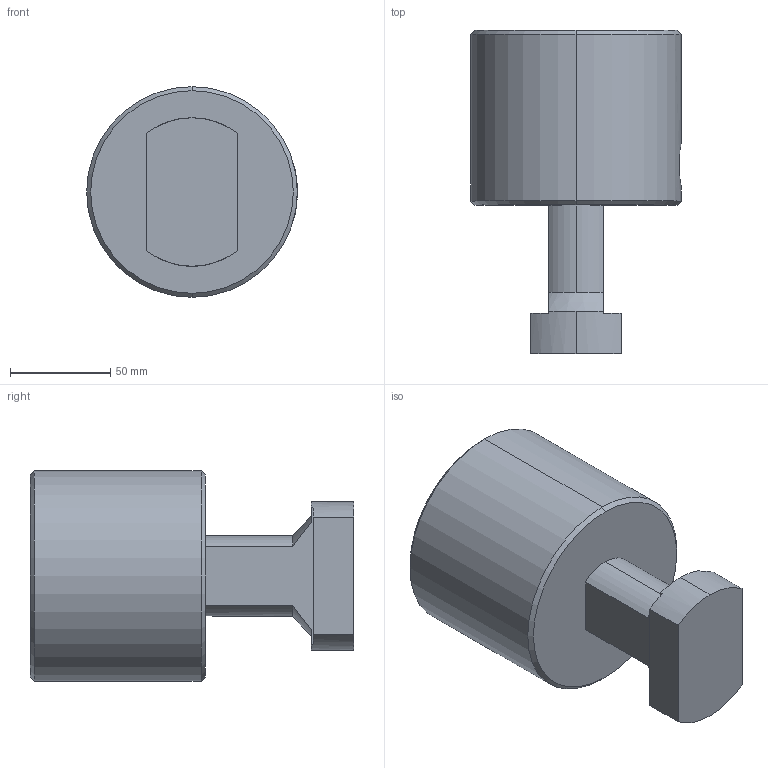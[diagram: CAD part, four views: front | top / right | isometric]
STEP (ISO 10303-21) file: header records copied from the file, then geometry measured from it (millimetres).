
FILE_DESCRIPTION (( 'STEP AP203' ), '1' );
FILE_NAME ('4650-511.STEP', '2016-01-29T10:29:10', ( '' ), ( '' ), 'SwSTEP 2.0', 'SolidWorks 2015', '' );
FILE_SCHEMA (( 'CONFIG_CONTROL_DESIGN' ));
Length unit declared in the file: millimetre
Products named in the file (1): 4650-511
Bounding box: 105 x 161 x 105 mm (x, y, z)
Volume: 869431.6 mm3; surface area: 60883.4 mm2
Topology: 1 solids, 1 shells, 33 faces, 81 edges, 51 vertices
Faces by surface type: cylinder 12, plane 12, cone 9
Entity records: 1159 total; most frequent: CARTESIAN_POINT 291, DIRECTION 175, ORIENTED_EDGE 158, EDGE_CURVE 79, AXIS2_PLACEMENT_3D 68, VERTEX_POINT 51, VECTOR 39, LINE 39
